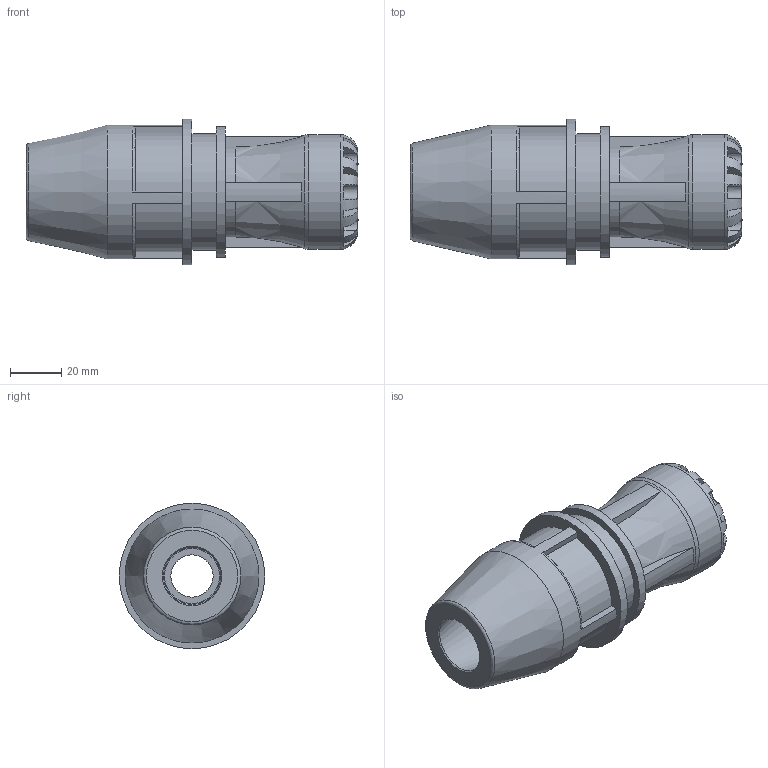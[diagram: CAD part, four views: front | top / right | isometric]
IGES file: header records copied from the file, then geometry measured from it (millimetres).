
Global section: file name: 100170025022.ipt; native system: Autodesk Inventor 2015; preprocessor: unknown; author: KIM; date: 20190127.091347; units: millimetre
Bounding box: 130 x 57 x 57 mm (x, y, z)
Volume: 145618.3 mm3; surface area: 36464.2 mm2
Topology: 1 solids, 1 shells, 125 faces, 329 edges, 213 vertices
Faces by surface type: plane 77, cylinder 25, revolution 22, cone 1
Full cylindrical faces by diameter (mm): 45 x1, 45.6 x1, 51.3 x1, 52.44 x1, 57 x1
